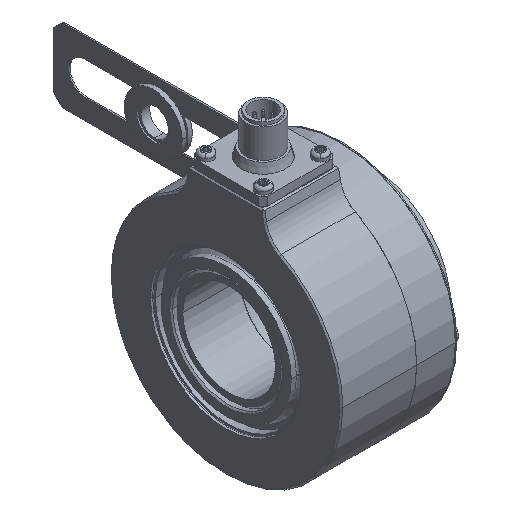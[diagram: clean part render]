
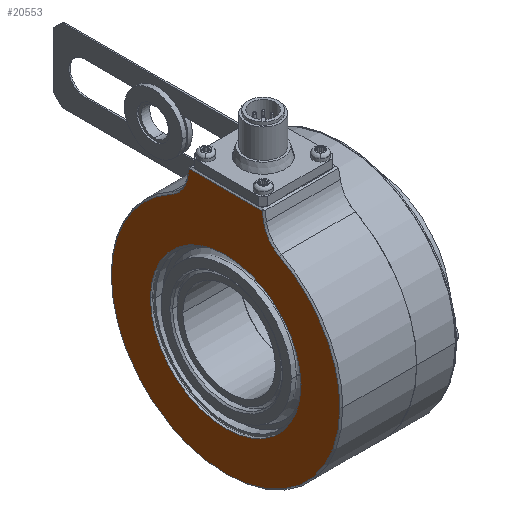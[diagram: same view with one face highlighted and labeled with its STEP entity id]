
A CAD part, isometric view. The second image highlights one B-rep face of the part: STEP entity #20553.
In plain terms, the highlighted planar face has unit normal (-1, 0, 0).
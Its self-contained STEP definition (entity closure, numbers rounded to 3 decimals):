
#76 = CARTESIAN_POINT ( 'NONE',  ( -26., 40., 45.5 ) ) ;
#201 = DIRECTION ( 'NONE',  ( 0., 0.174, 0.985 ) ) ;
#233 = DIRECTION ( 'NONE',  ( 0., -1., 0. ) ) ;
#371 = CARTESIAN_POINT ( 'NONE',  ( -26., -13.141, 42.32 ) ) ;
#609 = DIRECTION ( 'NONE',  ( -1., 0., 0. ) ) ;
#650 = CARTESIAN_POINT ( 'NONE',  ( -26., 0., 0. ) ) ;
#679 = VERTEX_POINT ( 'NONE', #2309 ) ;
#809 = AXIS2_PLACEMENT_3D ( 'NONE', #21217, #2393, #14908 ) ;
#1100 = AXIS2_PLACEMENT_3D ( 'NONE', #21229, #21365, #11218 ) ;
#1929 = ORIENTED_EDGE ( 'NONE', *, *, #23026, .T. ) ;
#2110 = DIRECTION ( 'NONE',  ( 0., -1., 0. ) ) ;
#2277 = EDGE_CURVE ( 'NONE', #13418, #8064, #17768, .T. ) ;
#2309 = CARTESIAN_POINT ( 'NONE',  ( -26., 13.141, 42.32 ) ) ;
#2393 = DIRECTION ( 'NONE',  ( 1., 0., 0. ) ) ;
#3157 = CARTESIAN_POINT ( 'NONE',  ( -26., 0., 0. ) ) ;
#3240 = EDGE_CURVE ( 'NONE', #6585, #13418, #6871, .T. ) ;
#3572 = VECTOR ( 'NONE', #23579, 1000. ) ;
#4715 = FACE_OUTER_BOUND ( 'NONE', #18345, .T. ) ;
#5030 = AXIS2_PLACEMENT_3D ( 'NONE', #19421, #609, #6919 ) ;
#5143 = VECTOR ( 'NONE', #20397, 1000. ) ;
#5241 = ORIENTED_EDGE ( 'NONE', *, *, #2277, .T. ) ;
#6377 = CARTESIAN_POINT ( 'NONE',  ( -26., 0., 0. ) ) ;
#6585 = VERTEX_POINT ( 'NONE', #13509 ) ;
#6810 = AXIS2_PLACEMENT_3D ( 'NONE', #6377, #20927, #2110 ) ;
#6871 = CIRCLE ( 'NONE', #7323, 39.5 ) ;
#6919 = DIRECTION ( 'NONE',  ( 0., -1., 0. ) ) ;
#7323 = AXIS2_PLACEMENT_3D ( 'NONE', #650, #19463, #233 ) ;
#7465 = CARTESIAN_POINT ( 'NONE',  ( -26., 39.5, 0. ) ) ;
#7684 = DIRECTION ( 'NONE',  ( 1., 0., 0. ) ) ;
#7704 = EDGE_CURVE ( 'NONE', #18338, #13805, #10331, .T. ) ;
#8064 = VERTEX_POINT ( 'NONE', #25874 ) ;
#8694 = ORIENTED_EDGE ( 'NONE', *, *, #10655, .T. ) ;
#8864 = DIRECTION ( 'NONE',  ( -1., 0., 0. ) ) ;
#8884 = DIRECTION ( 'NONE',  ( 1., 0., 0. ) ) ;
#9275 = AXIS2_PLACEMENT_3D ( 'NONE', #13264, #8864, #23277 ) ;
#10331 = CIRCLE ( 'NONE', #1100, 26. ) ;
#10487 = ORIENTED_EDGE ( 'NONE', *, *, #3240, .T. ) ;
#10655 = EDGE_CURVE ( 'NONE', #19793, #679, #21692, .T. ) ;
#10659 = LINE ( 'NONE', #21220, #24511 ) ;
#11149 = EDGE_CURVE ( 'NONE', #16704, #22443, #22289, .T. ) ;
#11218 = DIRECTION ( 'NONE',  ( 0., 1., 0. ) ) ;
#11233 = EDGE_LOOP ( 'NONE', ( #22366, #26798 ) ) ;
#11582 = AXIS2_PLACEMENT_3D ( 'NONE', #3157, #7684, #24326 ) ;
#11681 = CARTESIAN_POINT ( 'NONE',  ( -26., 12.58, 45.5 ) ) ;
#11973 = EDGE_CURVE ( 'NONE', #22443, #21092, #10659, .T. ) ;
#12132 = CIRCLE ( 'NONE', #22656, 10.5 ) ;
#13264 = CARTESIAN_POINT ( 'NONE',  ( -26., 0., 0. ) ) ;
#13418 = VERTEX_POINT ( 'NONE', #7465 ) ;
#13509 = CARTESIAN_POINT ( 'NONE',  ( -26., 18.551, 34.873 ) ) ;
#13539 = ORIENTED_EDGE ( 'NONE', *, *, #11973, .T. ) ;
#13805 = VERTEX_POINT ( 'NONE', #22677 ) ;
#14198 = CARTESIAN_POINT ( 'NONE',  ( -26., -18.551, 34.873 ) ) ;
#14362 = CARTESIAN_POINT ( 'NONE',  ( -26., -12.58, 45.5 ) ) ;
#14908 = DIRECTION ( 'NONE',  ( 0., -1., 0. ) ) ;
#15109 = CIRCLE ( 'NONE', #11582, 26. ) ;
#15379 = EDGE_CURVE ( 'NONE', #21092, #19793, #19045, .T. ) ;
#15445 = PLANE ( 'NONE',  #5030 ) ;
#15662 = CARTESIAN_POINT ( 'NONE',  ( -26., 21.188, -3.317 ) ) ;
#16704 = VERTEX_POINT ( 'NONE', #14198 ) ;
#17069 = CARTESIAN_POINT ( 'NONE',  ( -26., 26., 0. ) ) ;
#17168 = CIRCLE ( 'NONE', #9275, 39.5 ) ;
#17768 = CIRCLE ( 'NONE', #6810, 39.5 ) ;
#18338 = VERTEX_POINT ( 'NONE', #17069 ) ;
#18345 = EDGE_LOOP ( 'NONE', ( #13539, #19272, #8694, #1929, #10487, #5241, #24098, #22955 ) ) ;
#19045 = LINE ( 'NONE', #76, #3572 ) ;
#19272 = ORIENTED_EDGE ( 'NONE', *, *, #15379, .T. ) ;
#19315 = CARTESIAN_POINT ( 'NONE',  ( -26., 23.482, 44.143 ) ) ;
#19421 = CARTESIAN_POINT ( 'NONE',  ( -26., 40., 0. ) ) ;
#19463 = DIRECTION ( 'NONE',  ( -1., 0., 0. ) ) ;
#19698 = EDGE_CURVE ( 'NONE', #13805, #18338, #15109, .T. ) ;
#19793 = VERTEX_POINT ( 'NONE', #11681 ) ;
#20397 = DIRECTION ( 'NONE',  ( 0., 0.174, -0.985 ) ) ;
#20553 = ADVANCED_FACE ( 'NONE', ( #4715, #21472 ), #15445, .T. ) ;
#20927 = DIRECTION ( 'NONE',  ( -1., 0., 0. ) ) ;
#21092 = VERTEX_POINT ( 'NONE', #14362 ) ;
#21217 = CARTESIAN_POINT ( 'NONE',  ( -26., -23.482, 44.143 ) ) ;
#21220 = CARTESIAN_POINT ( 'NONE',  ( -26., -18.776, 10.364 ) ) ;
#21229 = CARTESIAN_POINT ( 'NONE',  ( -26., 0., 0. ) ) ;
#21365 = DIRECTION ( 'NONE',  ( 1., 0., 0. ) ) ;
#21472 = FACE_BOUND ( 'NONE', #11233, .T. ) ;
#21692 = LINE ( 'NONE', #15662, #5143 ) ;
#22289 = CIRCLE ( 'NONE', #809, 10.5 ) ;
#22366 = ORIENTED_EDGE ( 'NONE', *, *, #7704, .T. ) ;
#22443 = VERTEX_POINT ( 'NONE', #371 ) ;
#22656 = AXIS2_PLACEMENT_3D ( 'NONE', #19315, #8884, #25114 ) ;
#22677 = CARTESIAN_POINT ( 'NONE',  ( -26., -26., 0. ) ) ;
#22955 = ORIENTED_EDGE ( 'NONE', *, *, #11149, .T. ) ;
#23026 = EDGE_CURVE ( 'NONE', #679, #6585, #12132, .T. ) ;
#23277 = DIRECTION ( 'NONE',  ( 0., -1., 0. ) ) ;
#23579 = DIRECTION ( 'NONE',  ( 0., 1., 0. ) ) ;
#24098 = ORIENTED_EDGE ( 'NONE', *, *, #25423, .T. ) ;
#24326 = DIRECTION ( 'NONE',  ( 0., 1., 0. ) ) ;
#24511 = VECTOR ( 'NONE', #201, 1000. ) ;
#25114 = DIRECTION ( 'NONE',  ( 0., -1., 0. ) ) ;
#25423 = EDGE_CURVE ( 'NONE', #8064, #16704, #17168, .T. ) ;
#25874 = CARTESIAN_POINT ( 'NONE',  ( -26., -39.5, 0. ) ) ;
#26798 = ORIENTED_EDGE ( 'NONE', *, *, #19698, .T. ) ;
